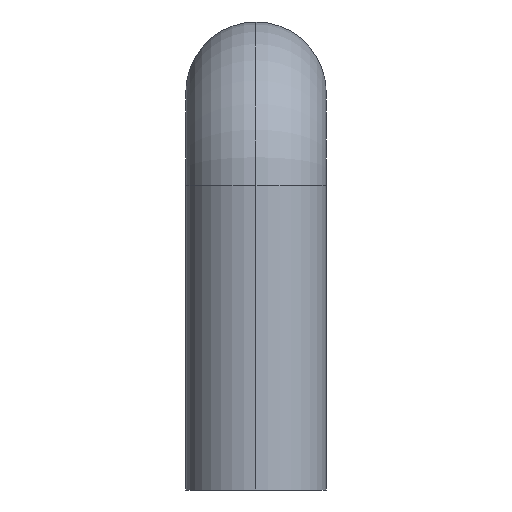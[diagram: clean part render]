
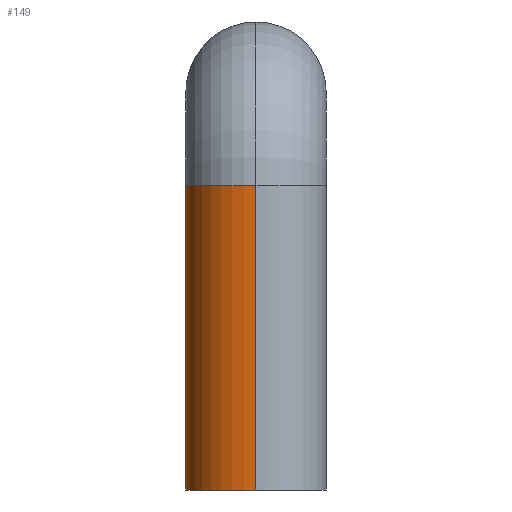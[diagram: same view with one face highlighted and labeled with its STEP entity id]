
A CAD part, left-side view. The second image highlights one B-rep face of the part: STEP entity #149.
In plain terms, the highlighted cylindrical face has radius 6 mm (diameter 12 mm), a partial arc.
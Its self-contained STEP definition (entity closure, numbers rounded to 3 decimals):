
#101 = EDGE_CURVE( '', #157, #201, #263, .T. );
#143 = VERTEX_POINT( '', #312 );
#149 = ADVANCED_FACE( '', ( #318 ), #319, .T. );
#157 = VERTEX_POINT( '', #327 );
#183 = EDGE_CURVE( '', #157, #221, #357, .T. );
#185 = EDGE_CURVE( '', #143, #201, #359, .T. );
#201 = VERTEX_POINT( '', #377 );
#221 = VERTEX_POINT( '', #400 );
#237 = EDGE_CURVE( '', #143, #221, #419, .T. );
#263 = CIRCLE( '', #438, 6. );
#312 = CARTESIAN_POINT( '', ( 6., 0., 0. ) );
#318 = FACE_OUTER_BOUND( '', #503, .T. );
#319 = CYLINDRICAL_SURFACE( '', #504, 6. );
#327 = CARTESIAN_POINT( '', ( -6., 0., 26. ) );
#357 = LINE( '', #555, #556 );
#359 = LINE( '', #559, #560 );
#377 = CARTESIAN_POINT( '', ( 6., 0., 26. ) );
#400 = CARTESIAN_POINT( '', ( -6., 0., 0. ) );
#419 = CIRCLE( '', #634, 6. );
#438 = AXIS2_PLACEMENT_3D( '', #641, #642, #643 );
#503 = EDGE_LOOP( '', ( #728, #729, #730, #731 ) );
#504 = AXIS2_PLACEMENT_3D( '', #732, #733, #734 );
#555 = CARTESIAN_POINT( '', ( -6., 0., 0. ) );
#556 = VECTOR( '', #780, 1. );
#559 = CARTESIAN_POINT( '', ( 6., 0., 0. ) );
#560 = VECTOR( '', #781, 1. );
#634 = AXIS2_PLACEMENT_3D( '', #860, #861, #862 );
#641 = CARTESIAN_POINT( '', ( 0., 0., 26. ) );
#642 = DIRECTION( '', ( 0., 0., -1. ) );
#643 = DIRECTION( '', ( 1., 0., 0. ) );
#728 = ORIENTED_EDGE( '', *, *, #185, .F. );
#729 = ORIENTED_EDGE( '', *, *, #237, .T. );
#730 = ORIENTED_EDGE( '', *, *, #183, .F. );
#731 = ORIENTED_EDGE( '', *, *, #101, .T. );
#732 = CARTESIAN_POINT( '', ( 0., 0., 0. ) );
#733 = DIRECTION( '', ( 0., 0., -1. ) );
#734 = DIRECTION( '', ( 1., 0., 0. ) );
#780 = DIRECTION( '', ( 0., 0., -1. ) );
#781 = DIRECTION( '', ( 0., 0., 1. ) );
#860 = CARTESIAN_POINT( '', ( 0., 0., 0. ) );
#861 = DIRECTION( '', ( 0., 0., 1. ) );
#862 = DIRECTION( '', ( 1., 0., 0. ) );
